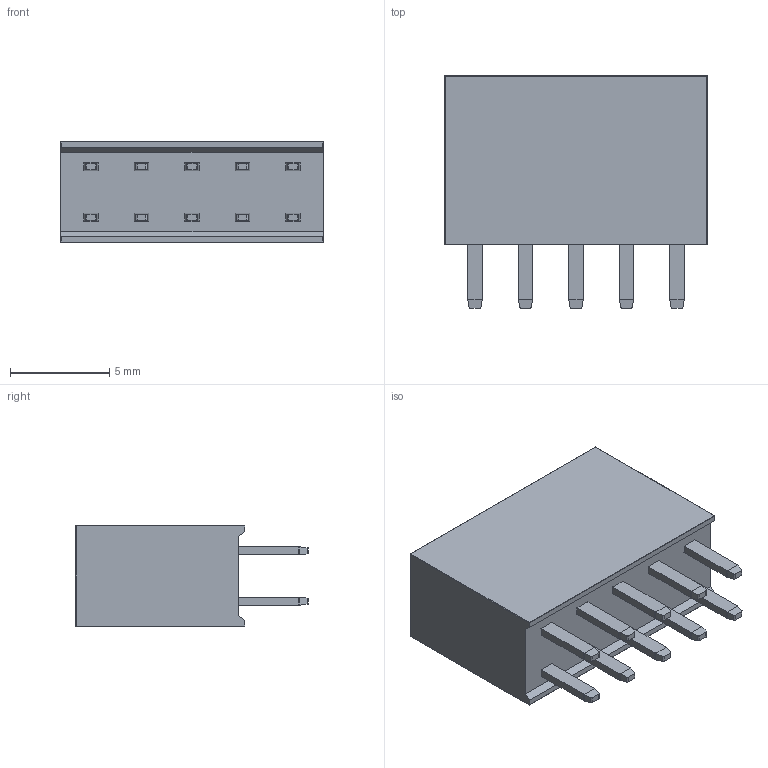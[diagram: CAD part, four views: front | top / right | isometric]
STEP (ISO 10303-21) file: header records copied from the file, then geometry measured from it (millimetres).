
FILE_DESCRIPTION (( 'STEP AP214' ), '1' );
FILE_NAME ('User Library-Header 5X2.STEP', '2017-09-15T23:40:02', ( 'Windows User' ), ( '' ), 'SwSTEP 2.0', 'SolidWorks 2017', '' );
FILE_SCHEMA (( 'AUTOMOTIVE_DESIGN' ));
Length unit declared in the file: millimetre
Products named in the file (3): User Library-Header 5X2_Pin Header_Défaut; User Library-Header 5X2_Header 5X2 Female_Défaut; User Library-Header 5X2
Assembly tree (11 placements, depth 2):
  User Library-Header 5X2
    User Library-Header 5X2_Header 5X2 Female_Défaut
    User Library-Header 5X2_Pin Header_Défaut  x10
Bounding box: 13.2 x 11.7 x 5.08 mm (x, y, z)
Volume: 527.5 mm3; surface area: 798.5 mm2
Topology: 11 solids, 11 shells, 292 faces, 714 edges, 436 vertices
Faces by surface type: plane 230, cylinder 54, bspline 8
Entity records: 6942 total; most frequent: CARTESIAN_POINT 998, ORIENTED_EDGE 836, DIRECTION 782, EDGE_CURVE 418, VECTOR 382, LINE 382, VERTEX_POINT 256, AXIS2_PLACEMENT_3D 200
